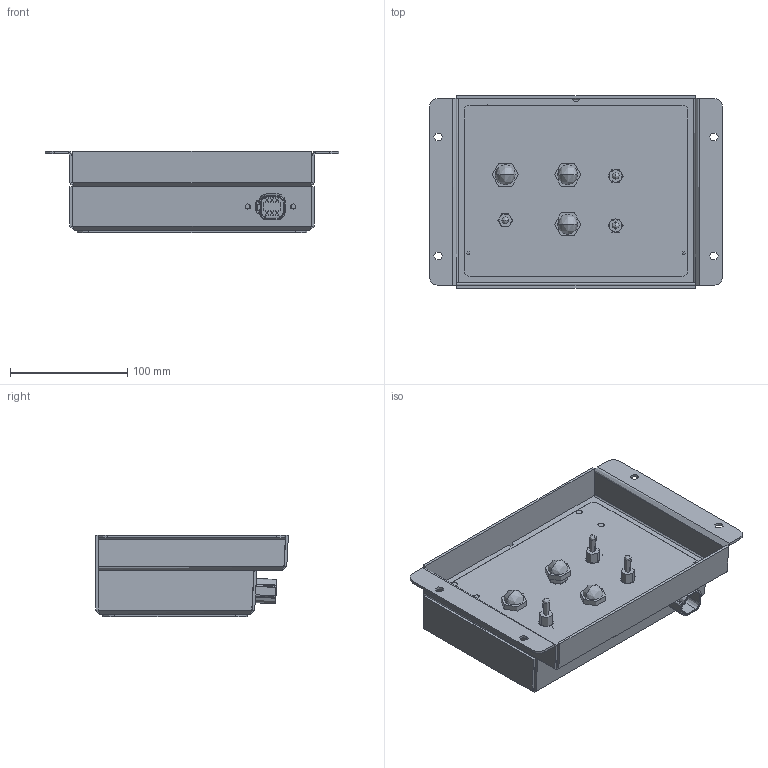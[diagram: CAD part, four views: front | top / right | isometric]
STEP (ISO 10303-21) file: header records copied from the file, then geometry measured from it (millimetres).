
FILE_DESCRIPTION (( 'STEP AP214' ), '1' );
FILE_NAME ('AECU-CPJM-111.STEP', '2019-11-29T22:11:42', ( '' ), ( '' ), 'SwSTEP 2.0', 'SolidWorks 2014', '' );
FILE_SCHEMA (( 'AUTOMOTIVE_DESIGN' ));
Length unit declared in the file: inch
Products named in the file (30): Saffron Toggle switch; Solico 66 Panel light; Copy of Part3^AECU-CPJM-111; AECU-CPJM-111; Part72^AECU-CPJM-111; Sheet Metal; Right Side Jack Controller Switch Panel V2 Enclosure P1; Right Side Jack Controller Switch Panel V2 Enclosure P2; copy of left side jack controller switch panel v2^AECU-CPJM-111; Part20^copy of left side jack controller switch panel v2_AECU-CPJM-111; 93580A122_PEM R  PRESS-IN STUD_93580A122; 93580A122_PEM R  PRESS-IN STUD; c-dt04-6p-cl09-99-3d
Assembly tree (23 placements, depth 3):
  Saffron Toggle switch
  Solico 66 Panel light
  Saffron Toggle switch
  Copy of Part3^AECU-CPJM-111
  AECU-CPJM-111
    Copy of Part3^AECU-CPJM-111
    copy of left side jack controller switch panel v2^AECU-CPJM-111
      Saffron Toggle switch  x3
      Solico 66 Panel light  x3
      c-dt04-6p-cl09-99-3d
      93580A122_PEM R  PRESS-IN STUD_93580A122  x4
      Part20^copy of left side jack controller switch panel v2_AECU-CPJM-111
    Sheet Metal
      Right Side Jack Controller Switch Panel V2 Enclosure P2
      Right Side Jack Controller Switch Panel V2 Enclosure P1
    Part72^AECU-CPJM-111
Bounding box: 250.57 x 164.59 x 69.82 mm (x, y, z)
Volume: 381640.4 mm3; surface area: 346083.6 mm2
Topology: 16 solids, 16 shells, 1708 faces, 4390 edges, 2759 vertices
Faces by surface type: plane 846, cylinder 480, cone 158, bspline 136, torus 76, sphere 12
Entity records: 53132 total; most frequent: CARTESIAN_POINT 14871, ORIENTED_EDGE 5990, DIRECTION 5699, EDGE_CURVE 2995, AXIS2_PLACEMENT_3D 1908, VERTEX_POINT 1895, VECTOR 1883, LINE 1883
